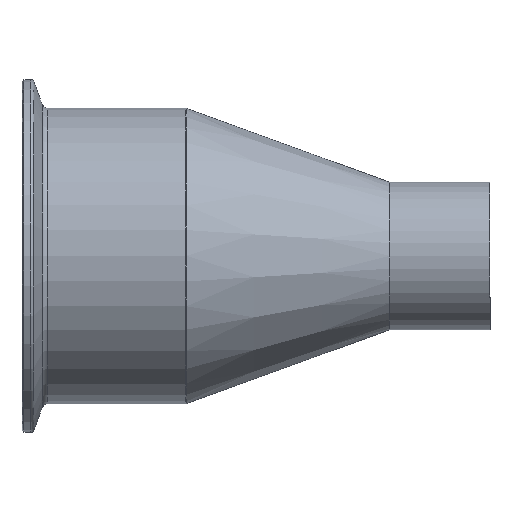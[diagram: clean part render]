
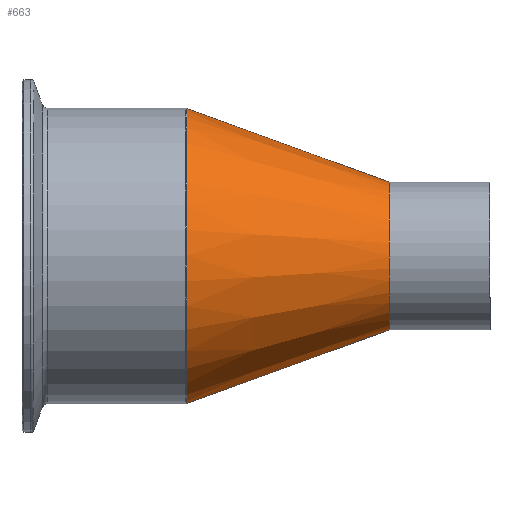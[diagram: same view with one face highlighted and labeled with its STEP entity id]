
A CAD part, top view. The second image highlights one B-rep face of the part: STEP entity #663.
In plain terms, the highlighted conical face has half-angle 20 degrees and reference radius 19.05 mm.
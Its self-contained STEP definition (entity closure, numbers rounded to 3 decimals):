
#62 = ORIENTED_EDGE ( 'NONE', *, *, #311, .F. ) ;
#81 = DIRECTION ( 'NONE',  ( 0., 1., 0. ) ) ;
#88 = DIRECTION ( 'NONE',  ( 1., 0., 0. ) ) ;
#96 = ORIENTED_EDGE ( 'NONE', *, *, #881, .T. ) ;
#97 = VERTEX_POINT ( 'NONE', #1043 ) ;
#102 = CARTESIAN_POINT ( 'NONE',  ( -26., 0., 0. ) ) ;
#136 = VERTEX_POINT ( 'NONE', #453 ) ;
#150 = CARTESIAN_POINT ( 'NONE',  ( -78.207, 0., 0. ) ) ;
#210 = DIRECTION ( 'NONE',  ( 0., 1., 0. ) ) ;
#255 = EDGE_CURVE ( 'NONE', #97, #136, #598, .T. ) ;
#290 = VECTOR ( 'NONE', #637, 1000. ) ;
#311 = EDGE_CURVE ( 'NONE', #136, #724, #991, .T. ) ;
#392 = CARTESIAN_POINT ( 'NONE',  ( -26., 0., 0. ) ) ;
#395 = CARTESIAN_POINT ( 'NONE',  ( -26., -19.05, 0. ) ) ;
#453 = CARTESIAN_POINT ( 'NONE',  ( -26., -19.05, 0. ) ) ;
#474 = DIRECTION ( 'NONE',  ( -1., 0., 0. ) ) ;
#562 = FACE_OUTER_BOUND ( 'NONE', #630, .T. ) ;
#585 = ORIENTED_EDGE ( 'NONE', *, *, #255, .F. ) ;
#596 = AXIS2_PLACEMENT_3D ( 'NONE', #392, #1065, #210 ) ;
#598 = CIRCLE ( 'NONE', #596, 19.05 ) ;
#630 = EDGE_LOOP ( 'NONE', ( #585, #818, #96, #62 ) ) ;
#637 = DIRECTION ( 'NONE',  ( -0.94, 0.342, 0. ) ) ;
#643 = CARTESIAN_POINT ( 'NONE',  ( -26., 19.05, 0. ) ) ;
#650 = CARTESIAN_POINT ( 'NONE',  ( -78.207, 38.052, 0. ) ) ;
#659 = DIRECTION ( 'NONE',  ( -0.94, -0.342, 0. ) ) ;
#661 = CIRCLE ( 'NONE', #794, 38.052 ) ;
#663 = ADVANCED_FACE ( 'NONE', ( #562 ), #990, .T. ) ;
#724 = VERTEX_POINT ( 'NONE', #725 ) ;
#725 = CARTESIAN_POINT ( 'NONE',  ( -78.207, -38.052, 0. ) ) ;
#736 = EDGE_CURVE ( 'NONE', #97, #1040, #773, .T. ) ;
#773 = LINE ( 'NONE', #643, #290 ) ;
#774 = VECTOR ( 'NONE', #659, 1000. ) ;
#794 = AXIS2_PLACEMENT_3D ( 'NONE', #150, #88, #81 ) ;
#818 = ORIENTED_EDGE ( 'NONE', *, *, #736, .T. ) ;
#838 = AXIS2_PLACEMENT_3D ( 'NONE', #102, #474, #894 ) ;
#881 = EDGE_CURVE ( 'NONE', #1040, #724, #661, .T. ) ;
#894 = DIRECTION ( 'NONE',  ( 0., -1., 0. ) ) ;
#990 = CONICAL_SURFACE ( 'NONE', #838, 19.05, 0.349 ) ;
#991 = LINE ( 'NONE', #395, #774 ) ;
#1040 = VERTEX_POINT ( 'NONE', #650 ) ;
#1043 = CARTESIAN_POINT ( 'NONE',  ( -26., 19.05, 0. ) ) ;
#1065 = DIRECTION ( 'NONE',  ( 1., 0., 0. ) ) ;
